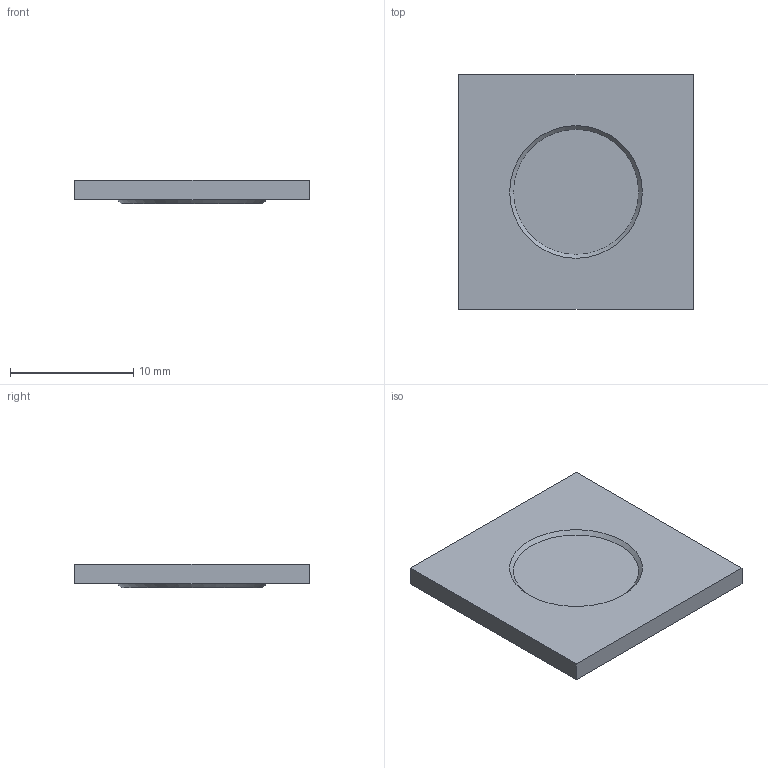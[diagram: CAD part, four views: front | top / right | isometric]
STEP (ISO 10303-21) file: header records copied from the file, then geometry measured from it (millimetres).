
FILE_DESCRIPTION((''),'1');
FILE_NAME('C:/Users/ericfrey.TRIAX/Documents/Desktop/407-5823-00 REV 01 DIMPLE DOWN.stp', '2014-04-01T17:58:33',(''), (''), 'KCM Version 1.1.967.0', 'Kubotek KeyCreator', '');
FILE_SCHEMA(('AUTOMOTIVE_DESIGN'));
Length unit declared in the file: inch
Bounding box: 19.05 x 19.05 x 1.88 mm (x, y, z)
Volume: 578.4 mm3; surface area: 854.6 mm2
Topology: 1 solids, 1 shells, 10 faces, 20 edges, 14 vertices
Faces by surface type: plane 8, cone 2
Entity records: 281 total; most frequent: DIRECTION 44, CARTESIAN_POINT 43, ORIENTED_EDGE 40, EDGE_CURVE 20, AXIS2_PLACEMENT_3D 15, VERTEX_POINT 14, VECTOR 14, LINE 14
